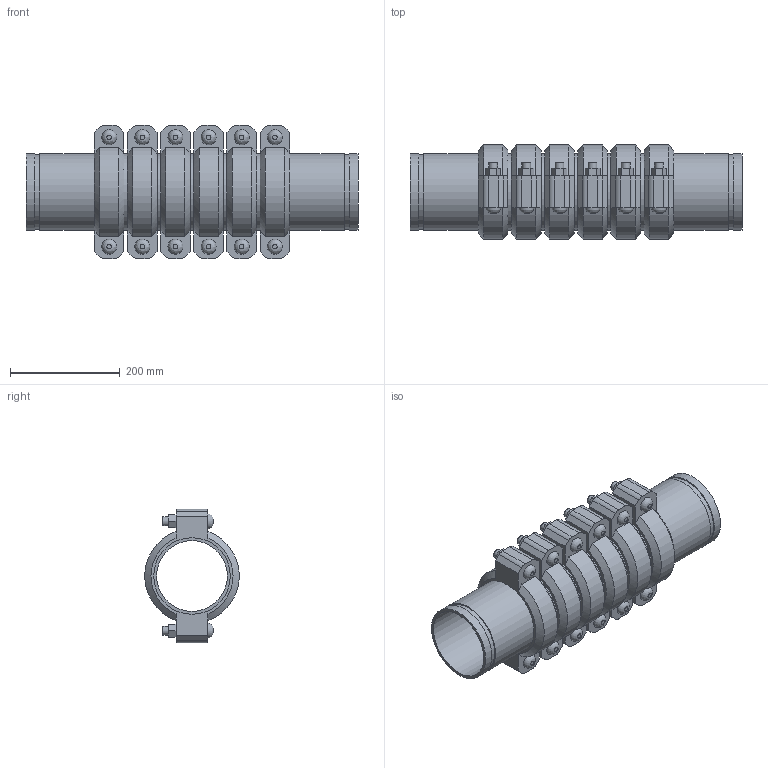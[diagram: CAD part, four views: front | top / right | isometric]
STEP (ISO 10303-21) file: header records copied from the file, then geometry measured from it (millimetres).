
FILE_DESCRIPTION(/* description */ ('VIC EXPANSION JOINT 6 COUPLINGS COMPRESSED STYLE 155 (OGS)','CAx-IF Rec.Pracs.---Representation and Presentation of Product Manufacturing Information (PMI)---4.0---2014-10-13'),/* implementation_level */ '2;1');
FILE_NAME(/* name */ 'C:\Users\kkamble\AppData\Roaming\Autodesk\ApplicationPlugins\Victaulic.Temp\A354\Victaulic_IPS_Expansion Joint_Compressed_6 Couplings_Style 155 (OGS)_05.0 (139.7) (125).stp',/* time_stamp */ '2021-06-27T00:32:00+02:00',/* author */ ('kkamble'),/* organization */ ('Victaulic'),/* preprocessor_version */ 'ST-DEVELOPER v17.2',/* originating_system */ 'Autodesk Inventor 2019',/* authorisation */ '');
FILE_SCHEMA (('AP242_MANAGED_MODEL_BASED_3D_ENGINEERING_MIM_LF { 1 0 10303 442 1 1 4 }'));
Length unit declared in the file: inch
Products named in the file (4): 155-05.0 (139.7); Nipple-05.0 (139.7); Nipple-05.0 (139.7)_1; 075_6_Coup05.0 (139.7)
Assembly tree (13 placements, depth 2):
  155-05.0 (139.7)
    Nipple-05.0 (139.7)  x2
    Nipple-05.0 (139.7)_1  x5
    075_6_Coup05.0 (139.7)  x6
Bounding box: 606.3 x 172.14 x 243.59 mm (x, y, z)
Volume: 4981047.2 mm3; surface area: 1154716.6 mm2
Topology: 13 solids, 25 shells, 426 faces, 1008 edges, 708 vertices
Faces by surface type: plane 258, cylinder 132, cone 24, bspline 12
Full cylindrical faces by diameter (mm): 15.875 x24, 17.424 x12, 129.388 x7, 133.35 x6, 135.484 x14, 139.7 x33
Entity records: 2826 total; most frequent: CARTESIAN_POINT 497, DIRECTION 469, ORIENTED_EDGE 386, EDGE_CURVE 193, AXIS2_PLACEMENT_3D 188, VERTEX_POINT 138, EDGE_LOOP 107, LINE 93
